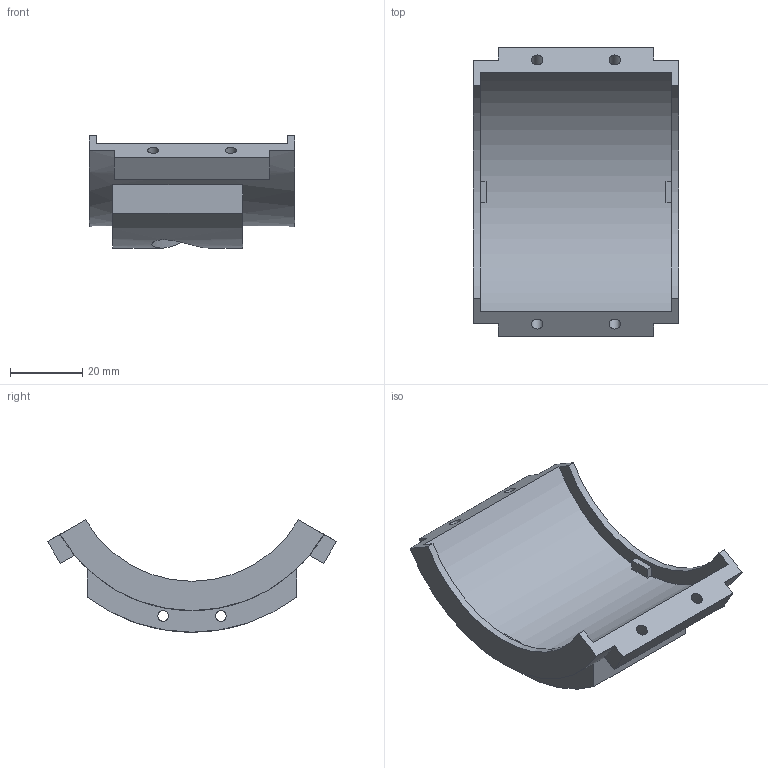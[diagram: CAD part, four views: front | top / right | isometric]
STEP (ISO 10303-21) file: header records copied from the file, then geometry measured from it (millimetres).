
FILE_DESCRIPTION(('Open CASCADE Model'),'2;1');
FILE_NAME('Open CASCADE Shape Model','2026-10-31T23:31:00',('Author'),( 'Open CASCADE'),'Open CASCADE STEP processor 7.9','Open CASCADE 7.9' ,'Unknown');
FILE_SCHEMA(('AUTOMOTIVE_DESIGN { 1 0 10303 214 1 1 1 1 }'));
Length unit declared in the file: millimetre
Products named in the file (1): Open CASCADE STEP translator 7.9 19
Bounding box: 57 x 80.02 x 31.15 mm (x, y, z)
Volume: 31846.3 mm3; surface area: 15745.9 mm2
Topology: 1 solids, 1 shells, 62 faces, 190 edges, 127 vertices
Faces by surface type: plane 43, cylinder 15, bspline 4
Full cylindrical faces by diameter (mm): 3 x4, 3.2 x4
Entity records: 11647 total; most frequent: CARTESIAN_POINT 8019, DIRECTION 619, LINE 385, VECTOR 385, ORIENTED_EDGE 380, PCURVE 380, DEFINITIONAL_REPRESENTATION 380, EDGE_CURVE 190
